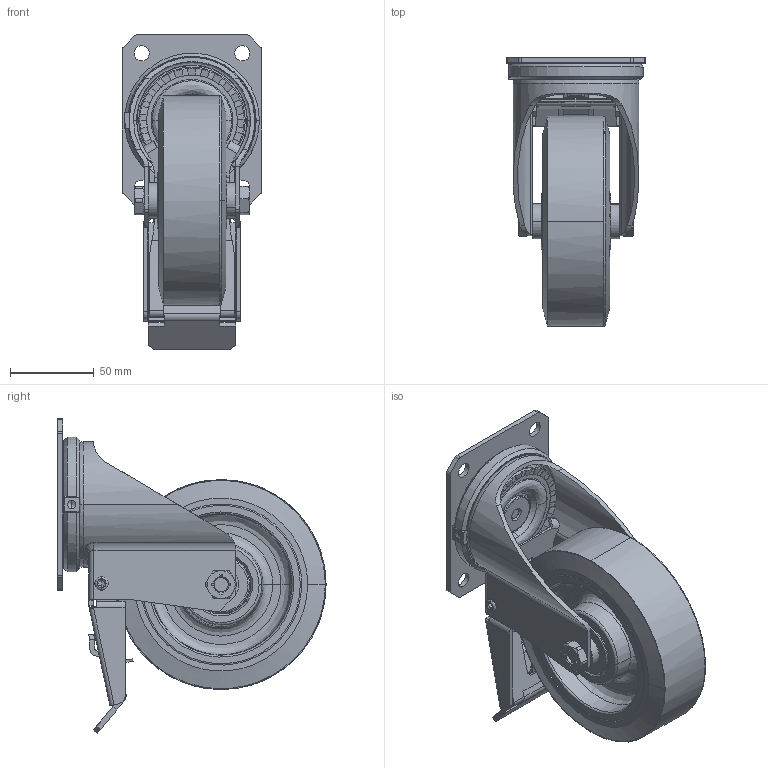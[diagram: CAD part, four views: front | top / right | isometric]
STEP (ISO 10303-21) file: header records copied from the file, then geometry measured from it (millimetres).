
FILE_DESCRIPTION (( 'STEP AP203' ), '1' );
FILE_NAME ('401521_.step', '2015-09-14T06:48:16', ( 'admin' ), ( 'Hewlett-Packard Company' ), 'SwSTEP 2.0', 'SolidWorks 2014', '' );
FILE_SCHEMA (( 'CONFIG_CONTROL_DESIGN' ));
Length unit declared in the file: millimetre
Products named in the file (1): 401521_
Bounding box: 83 x 159.67 x 187.2 mm (x, y, z)
Surface area: 161104.6 mm2 (no closed solid volume)
Topology: 0 solids, 21 shells, 770 faces, 2193 edges, 1417 vertices
Faces by surface type: plane 347, cylinder 187, bspline 152, cone 78, torus 6
Entity records: 46024 total; most frequent: CARTESIAN_POINT 27769, ORIENTED_EDGE 3936, DIRECTION 3190, EDGE_CURVE 2186, VERTEX_POINT 1417, AXIS2_PLACEMENT_3D 1087, LINE 1016, VECTOR 1016
